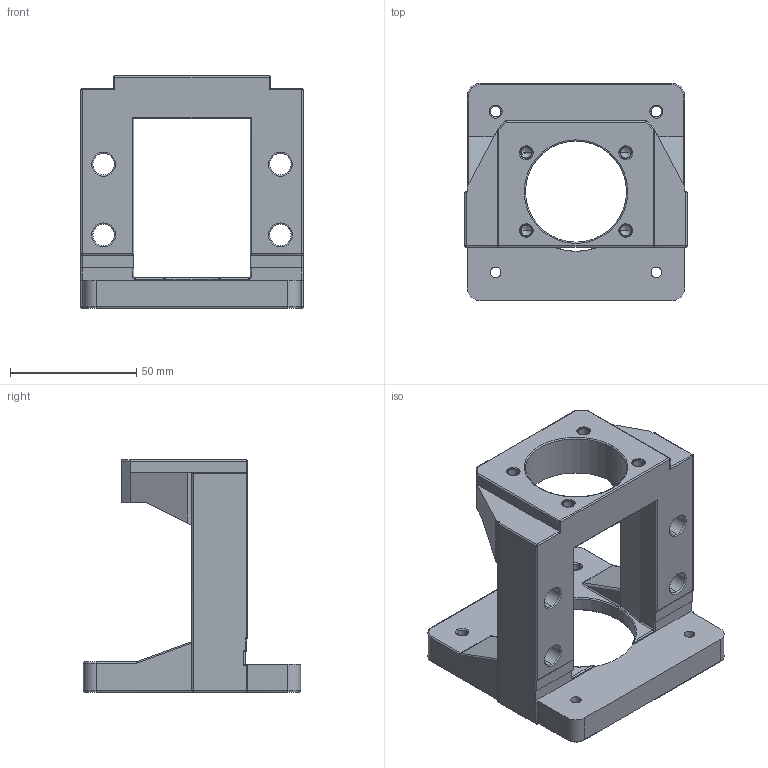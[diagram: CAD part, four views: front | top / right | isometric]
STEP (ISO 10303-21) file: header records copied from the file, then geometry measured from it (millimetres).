
FILE_DESCRIPTION (( 'STEP AP203' ), '1' );
FILE_NAME ('傳動座MBL15-EP.STEP', '2020-06-30T06:15:44', ( '' ), ( '' ), 'SwSTEP 2.0', 'SolidWorks 2018', '' );
FILE_SCHEMA (( 'CONFIG_CONTROL_DESIGN' ));
Length unit declared in the file: millimetre
Products named in the file (1): 傳動座MBL15-EP
Bounding box: 88 x 86 x 92 mm (x, y, z)
Volume: 150510.9 mm3; surface area: 41029.8 mm2
Topology: 1 solids, 1 shells, 248 faces, 594 edges, 334 vertices
Faces by surface type: cylinder 109, torus 51, plane 50, cone 24, sphere 12, bspline 2
Entity records: 7174 total; most frequent: CARTESIAN_POINT 1379, DIRECTION 1295, ORIENTED_EDGE 1148, EDGE_CURVE 574, AXIS2_PLACEMENT_3D 516, VERTEX_POINT 334, EDGE_LOOP 276, CIRCLE 269
